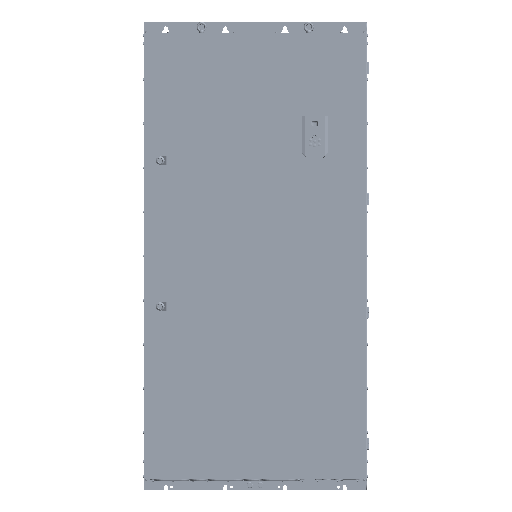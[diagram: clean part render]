
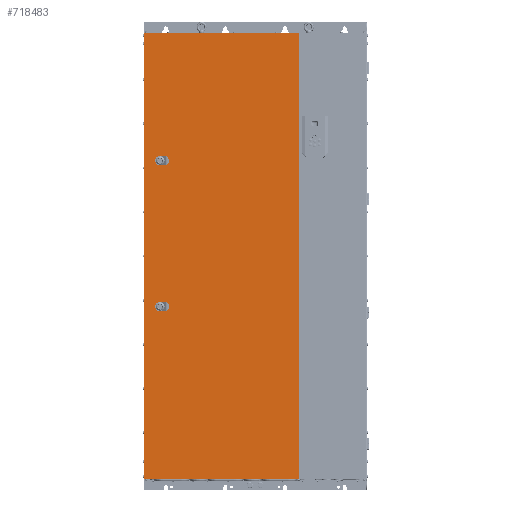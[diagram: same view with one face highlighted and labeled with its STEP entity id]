
A CAD part, top view. The second image highlights one B-rep face of the part: STEP entity #718483.
In plain terms, the highlighted planar face has unit normal (0, 0, 1).
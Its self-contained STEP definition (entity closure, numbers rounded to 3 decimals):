
#716058=DIRECTION('',(0.,-1.,0.));
#716059=VECTOR('',#716058,1495.05);
#716060=CARTESIAN_POINT('',(-372.25,1497.75,10.5));
#716061=LINE('',#716060,#716059);
#716482=DIRECTION('',(1.,0.,0.));
#716483=VECTOR('',#716482,519.25);
#716484=CARTESIAN_POINT('',(-372.25,2.7,10.5));
#716485=LINE('',#716484,#716483);
#716543=DIRECTION('',(1.,0.,0.));
#716544=VECTOR('',#716543,10.308);
#716545=CARTESIAN_POINT('',(-324.654,1080.,10.5));
#716546=LINE('',#716545,#716544);
#716550=CARTESIAN_POINT('',(-319.5,1070.,10.5));
#716551=DIRECTION('',(0.,0.,1.));
#716552=DIRECTION('',(-0.458,0.889,0.));
#716553=AXIS2_PLACEMENT_3D('',#716550,#716551,#716552);
#716558=DIRECTION('',(0.,1.,0.));
#716559=VECTOR('',#716558,10.308);
#716560=CARTESIAN_POINT('',(-329.5,1064.846,10.5));
#716561=LINE('',#716560,#716559);
#716565=CARTESIAN_POINT('',(-319.5,1070.,10.5));
#716566=DIRECTION('',(0.,0.,1.));
#716567=DIRECTION('',(-0.889,-0.458,0.));
#716568=AXIS2_PLACEMENT_3D('',#716565,#716566,#716567);
#716573=DIRECTION('',(-1.,0.,0.));
#716574=VECTOR('',#716573,10.308);
#716575=CARTESIAN_POINT('',(-314.346,1060.,10.5));
#716576=LINE('',#716575,#716574);
#716580=CARTESIAN_POINT('',(-319.5,1070.,10.5));
#716581=DIRECTION('',(0.,0.,1.));
#716582=DIRECTION('',(0.458,-0.889,0.));
#716583=AXIS2_PLACEMENT_3D('',#716580,#716581,#716582);
#716588=DIRECTION('',(0.,-1.,0.));
#716589=VECTOR('',#716588,10.308);
#716590=CARTESIAN_POINT('',(-309.5,1075.154,10.5));
#716591=LINE('',#716590,#716589);
#716595=CARTESIAN_POINT('',(-319.5,1070.,10.5));
#716596=DIRECTION('',(0.,0.,1.));
#716597=DIRECTION('',(0.889,0.458,0.));
#716598=AXIS2_PLACEMENT_3D('',#716595,#716596,#716597);
#716603=DIRECTION('',(0.,-1.,0.));
#716604=VECTOR('',#716603,1495.05);
#716605=CARTESIAN_POINT('',(147.,1497.75,10.5));
#716606=LINE('',#716605,#716604);
#716617=DIRECTION('',(1.,0.,0.));
#716618=VECTOR('',#716617,10.308);
#716619=CARTESIAN_POINT('',(-324.654,590.,10.5));
#716620=LINE('',#716619,#716618);
#716624=CARTESIAN_POINT('',(-319.5,580.,10.5));
#716625=DIRECTION('',(0.,0.,1.));
#716626=DIRECTION('',(-0.458,0.889,0.));
#716627=AXIS2_PLACEMENT_3D('',#716624,#716625,#716626);
#716632=DIRECTION('',(0.,1.,0.));
#716633=VECTOR('',#716632,10.308);
#716634=CARTESIAN_POINT('',(-329.5,574.846,10.5));
#716635=LINE('',#716634,#716633);
#716639=CARTESIAN_POINT('',(-319.5,580.,10.5));
#716640=DIRECTION('',(0.,0.,1.));
#716641=DIRECTION('',(-0.889,-0.458,0.));
#716642=AXIS2_PLACEMENT_3D('',#716639,#716640,#716641);
#716647=DIRECTION('',(-1.,0.,0.));
#716648=VECTOR('',#716647,10.308);
#716649=CARTESIAN_POINT('',(-314.346,570.,10.5));
#716650=LINE('',#716649,#716648);
#716654=CARTESIAN_POINT('',(-319.5,580.,10.5));
#716655=DIRECTION('',(0.,0.,1.));
#716656=DIRECTION('',(0.458,-0.889,0.));
#716657=AXIS2_PLACEMENT_3D('',#716654,#716655,#716656);
#716662=DIRECTION('',(0.,-1.,0.));
#716663=VECTOR('',#716662,10.308);
#716664=CARTESIAN_POINT('',(-309.5,585.154,10.5));
#716665=LINE('',#716664,#716663);
#716669=CARTESIAN_POINT('',(-319.5,580.,10.5));
#716670=DIRECTION('',(0.,0.,1.));
#716671=DIRECTION('',(0.889,0.458,0.));
#716672=AXIS2_PLACEMENT_3D('',#716669,#716670,#716671);
#716748=DIRECTION('',(1.,0.,0.));
#716749=VECTOR('',#716748,519.25);
#716750=CARTESIAN_POINT('',(-372.25,1497.75,10.5));
#716751=LINE('',#716750,#716749);
#717726=CARTESIAN_POINT('',(-372.25,1497.75,10.5));
#717727=CARTESIAN_POINT('',(-372.25,2.7,10.5));
#717728=VERTEX_POINT('',#717726);
#717729=VERTEX_POINT('',#717727);
#717839=CARTESIAN_POINT('',(-324.654,1080.,10.5));
#717840=CARTESIAN_POINT('',(-314.346,1080.,10.5));
#717841=VERTEX_POINT('',#717839);
#717842=VERTEX_POINT('',#717840);
#717843=CARTESIAN_POINT('',(-309.5,1075.154,10.5));
#717844=VERTEX_POINT('',#717843);
#717845=CARTESIAN_POINT('',(-309.5,1064.846,10.5));
#717846=VERTEX_POINT('',#717845);
#717847=CARTESIAN_POINT('',(-314.346,1060.,10.5));
#717848=VERTEX_POINT('',#717847);
#717849=CARTESIAN_POINT('',(-324.654,1060.,10.5));
#717850=VERTEX_POINT('',#717849);
#717851=CARTESIAN_POINT('',(-329.5,1064.846,10.5));
#717852=VERTEX_POINT('',#717851);
#717853=CARTESIAN_POINT('',(-329.5,1075.154,10.5));
#717854=VERTEX_POINT('',#717853);
#717871=CARTESIAN_POINT('',(147.,1497.75,10.5));
#717872=CARTESIAN_POINT('',(147.,2.7,10.5));
#717873=VERTEX_POINT('',#717871);
#717874=VERTEX_POINT('',#717872);
#717943=CARTESIAN_POINT('',(-324.654,590.,10.5));
#717944=CARTESIAN_POINT('',(-314.346,590.,10.5));
#717945=VERTEX_POINT('',#717943);
#717946=VERTEX_POINT('',#717944);
#717947=CARTESIAN_POINT('',(-309.5,585.154,10.5));
#717948=VERTEX_POINT('',#717947);
#717949=CARTESIAN_POINT('',(-309.5,574.846,10.5));
#717950=VERTEX_POINT('',#717949);
#717951=CARTESIAN_POINT('',(-314.346,570.,10.5));
#717952=VERTEX_POINT('',#717951);
#717953=CARTESIAN_POINT('',(-324.654,570.,10.5));
#717954=VERTEX_POINT('',#717953);
#717955=CARTESIAN_POINT('',(-329.5,574.846,10.5));
#717956=VERTEX_POINT('',#717955);
#717957=CARTESIAN_POINT('',(-329.5,585.154,10.5));
#717958=VERTEX_POINT('',#717957);
#718435=CARTESIAN_POINT('',(-374.5,1500.,10.5));
#718436=DIRECTION('',(0.,0.,1.));
#718437=DIRECTION('',(0.,-1.,0.));
#718438=AXIS2_PLACEMENT_3D('',#718435,#718436,#718437);
#718439=PLANE('',#718438);
#718440=ORIENTED_EDGE('',*,*,#718426,.T.);
#718441=ORIENTED_EDGE('',*,*,#718365,.F.);
#718442=ORIENTED_EDGE('',*,*,#718103,.F.);
#718444=ORIENTED_EDGE('',*,*,#718443,.T.);
#718445=EDGE_LOOP('',(#718440,#718441,#718442,#718444));
#718446=FACE_OUTER_BOUND('',#718445,.F.);
#718448=ORIENTED_EDGE('',*,*,#718447,.F.);
#718450=ORIENTED_EDGE('',*,*,#718449,.T.);
#718452=ORIENTED_EDGE('',*,*,#718451,.F.);
#718454=ORIENTED_EDGE('',*,*,#718453,.T.);
#718456=ORIENTED_EDGE('',*,*,#718455,.F.);
#718458=ORIENTED_EDGE('',*,*,#718457,.T.);
#718460=ORIENTED_EDGE('',*,*,#718459,.F.);
#718462=ORIENTED_EDGE('',*,*,#718461,.T.);
#718463=EDGE_LOOP('',(#718448,#718450,#718452,#718454,#718456,#718458,#718460,
#718462));
#718464=FACE_BOUND('',#718463,.F.);
#718466=ORIENTED_EDGE('',*,*,#718465,.F.);
#718468=ORIENTED_EDGE('',*,*,#718467,.T.);
#718470=ORIENTED_EDGE('',*,*,#718469,.F.);
#718472=ORIENTED_EDGE('',*,*,#718471,.T.);
#718474=ORIENTED_EDGE('',*,*,#718473,.F.);
#718476=ORIENTED_EDGE('',*,*,#718475,.T.);
#718478=ORIENTED_EDGE('',*,*,#718477,.F.);
#718480=ORIENTED_EDGE('',*,*,#718479,.T.);
#718481=EDGE_LOOP('',(#718466,#718468,#718470,#718472,#718474,#718476,#718478,
#718480));
#718482=FACE_BOUND('',#718481,.F.);
#718483=ADVANCED_FACE('',(#718446,#718464,#718482),#718439,.T.);
#716554=CIRCLE('',#716553,11.25);
#716569=CIRCLE('',#716568,11.25);
#716584=CIRCLE('',#716583,11.25);
#716599=CIRCLE('',#716598,11.25);
#716628=CIRCLE('',#716627,11.25);
#716643=CIRCLE('',#716642,11.25);
#716658=CIRCLE('',#716657,11.25);
#716673=CIRCLE('',#716672,11.25);
#718103=EDGE_CURVE('',#717728,#717729,#716061,.T.);
#718365=EDGE_CURVE('',#717729,#717874,#716485,.T.);
#718426=EDGE_CURVE('',#717873,#717874,#716606,.T.);
#718443=EDGE_CURVE('',#717728,#717873,#716751,.T.);
#718447=EDGE_CURVE('',#717841,#717842,#716546,.T.);
#718449=EDGE_CURVE('',#717841,#717854,#716554,.T.);
#718451=EDGE_CURVE('',#717852,#717854,#716561,.T.);
#718453=EDGE_CURVE('',#717852,#717850,#716569,.T.);
#718455=EDGE_CURVE('',#717848,#717850,#716576,.T.);
#718457=EDGE_CURVE('',#717848,#717846,#716584,.T.);
#718459=EDGE_CURVE('',#717844,#717846,#716591,.T.);
#718461=EDGE_CURVE('',#717844,#717842,#716599,.T.);
#718465=EDGE_CURVE('',#717945,#717946,#716620,.T.);
#718467=EDGE_CURVE('',#717945,#717958,#716628,.T.);
#718469=EDGE_CURVE('',#717956,#717958,#716635,.T.);
#718471=EDGE_CURVE('',#717956,#717954,#716643,.T.);
#718473=EDGE_CURVE('',#717952,#717954,#716650,.T.);
#718475=EDGE_CURVE('',#717952,#717950,#716658,.T.);
#718477=EDGE_CURVE('',#717948,#717950,#716665,.T.);
#718479=EDGE_CURVE('',#717948,#717946,#716673,.T.);
